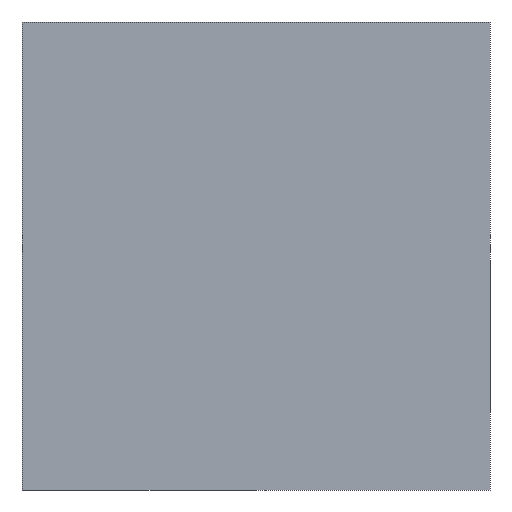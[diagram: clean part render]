
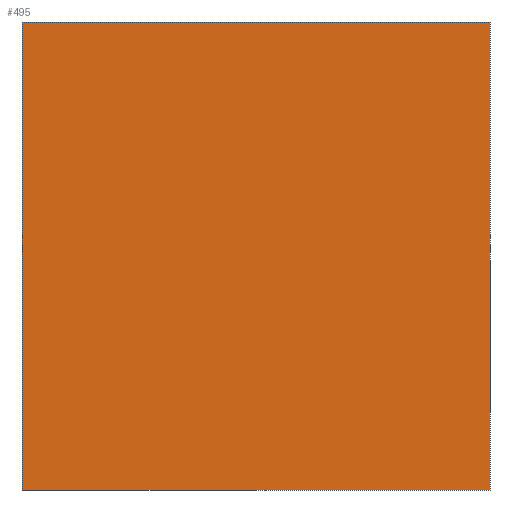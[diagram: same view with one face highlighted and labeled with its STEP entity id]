
A CAD part, left-side view. The second image highlights one B-rep face of the part: STEP entity #495.
In plain terms, the highlighted planar face has unit normal (-1, 0, 0).
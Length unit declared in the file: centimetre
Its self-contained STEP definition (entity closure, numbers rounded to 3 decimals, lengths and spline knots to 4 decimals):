
#7 = CARTESIAN_POINT ( 'NONE',  ( 0., 1000., 0. ) ) ;
#16 = PLANE ( 'NONE',  #322 ) ;
#48 = CARTESIAN_POINT ( 'NONE',  ( 0., 1000., 0. ) ) ;
#50 = DIRECTION ( 'NONE',  ( 0., -1., 0. ) ) ;
#55 = ORIENTED_EDGE ( 'NONE', *, *, #335, .F. ) ;
#58 = DIRECTION ( 'NONE',  ( 0., -1., 0. ) ) ;
#64 = VECTOR ( 'NONE', #50, 100. ) ;
#88 = EDGE_CURVE ( 'NONE', #186, #93, #92, .T. ) ;
#92 = LINE ( 'NONE', #396, #462 ) ;
#93 = VERTEX_POINT ( 'NONE', #48 ) ;
#100 = CARTESIAN_POINT ( 'NONE',  ( 0., 1000., 1000. ) ) ;
#104 = FACE_OUTER_BOUND ( 'NONE', #445, .T. ) ;
#105 = VERTEX_POINT ( 'NONE', #364 ) ;
#108 = LINE ( 'NONE', #435, #179 ) ;
#129 = CARTESIAN_POINT ( 'NONE',  ( 0., 1000., 1000. ) ) ;
#179 = VECTOR ( 'NONE', #506, 100. ) ;
#186 = VERTEX_POINT ( 'NONE', #100 ) ;
#190 = ORIENTED_EDGE ( 'NONE', *, *, #372, .T. ) ;
#218 = VERTEX_POINT ( 'NONE', #358 ) ;
#224 = ORIENTED_EDGE ( 'NONE', *, *, #300, .F. ) ;
#257 = ORIENTED_EDGE ( 'NONE', *, *, #88, .T. ) ;
#265 = CARTESIAN_POINT ( 'NONE',  ( 0., 1000., 1000. ) ) ;
#268 = VECTOR ( 'NONE', #58, 100. ) ;
#300 = EDGE_CURVE ( 'NONE', #105, #218, #108, .T. ) ;
#322 = AXIS2_PLACEMENT_3D ( 'NONE', #265, #415, #362 ) ;
#324 = LINE ( 'NONE', #129, #64 ) ;
#335 = EDGE_CURVE ( 'NONE', #186, #105, #324, .T. ) ;
#358 = CARTESIAN_POINT ( 'NONE',  ( 0., 0., 0. ) ) ;
#362 = DIRECTION ( 'NONE',  ( 0., 0., -1. ) ) ;
#364 = CARTESIAN_POINT ( 'NONE',  ( 0., 0., 1000. ) ) ;
#370 = LINE ( 'NONE', #7, #268 ) ;
#372 = EDGE_CURVE ( 'NONE', #93, #218, #370, .T. ) ;
#396 = CARTESIAN_POINT ( 'NONE',  ( 0., 1000., 1000. ) ) ;
#415 = DIRECTION ( 'NONE',  ( 1., 0., 0. ) ) ;
#435 = CARTESIAN_POINT ( 'NONE',  ( 0., 0., 1000. ) ) ;
#445 = EDGE_LOOP ( 'NONE', ( #190, #224, #55, #257 ) ) ;
#462 = VECTOR ( 'NONE', #488, 100. ) ;
#488 = DIRECTION ( 'NONE',  ( 0., 0., -1. ) ) ;
#495 = ADVANCED_FACE ( 'NONE', ( #104 ), #16, .F. ) ;
#506 = DIRECTION ( 'NONE',  ( 0., 0., -1. ) ) ;
